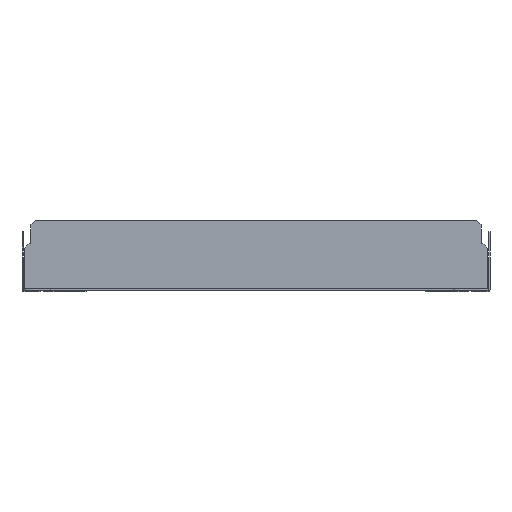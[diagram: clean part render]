
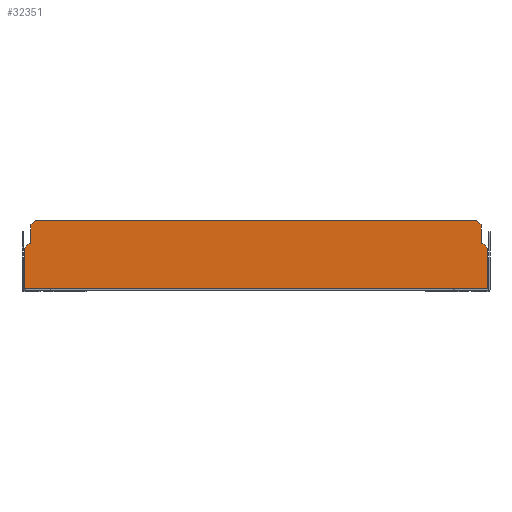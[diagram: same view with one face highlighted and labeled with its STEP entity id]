
A CAD part, front view. The second image highlights one B-rep face of the part: STEP entity #32351.
In plain terms, the highlighted planar face has unit normal (0, -1, 0).
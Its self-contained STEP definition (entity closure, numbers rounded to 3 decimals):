
#30596=CARTESIAN_POINT(' ',(247.5,-1.5,0.6));
#30597=VERTEX_POINT(' ',#30596);
#30611=CARTESIAN_POINT(' ',(247.5,-1.5,0.6));
#30616=DIRECTION(' ',(-1.,0.,0.));
#30621=VECTOR(' ',#30616,1.);
#30626=LINE('',#30611,#30621);
#30631=CARTESIAN_POINT(' ',(-247.5,-1.5,0.6));
#30632=VERTEX_POINT(' ',#30631);
#30636=EDGE_CURVE(' ',#30597,#30632,#30626,.T.);
#30776=CARTESIAN_POINT(' ',(247.5,-1.5,43.5));
#30777=VERTEX_POINT(' ',#30776);
#30791=CARTESIAN_POINT(' ',(247.5,-1.5,43.5));
#30796=DIRECTION(' ',(0.,0.,-1.));
#30801=VECTOR(' ',#30796,1.);
#30806=LINE('',#30791,#30801);
#30811=EDGE_CURVE(' ',#30777,#30597,#30806,.T.);
#31391=CARTESIAN_POINT(' ',(-247.5,-1.5,0.6));
#31396=DIRECTION(' ',(0.,0.,1.));
#31401=VECTOR(' ',#31396,1.);
#31406=LINE('',#31391,#31401);
#31411=CARTESIAN_POINT(' ',(-247.5,-1.5,43.5));
#31412=VERTEX_POINT(' ',#31411);
#31416=EDGE_CURVE(' ',#30632,#31412,#31406,.T.);
#31991=DIRECTION(' ',(0.,-1.,0.));
#31996=CARTESIAN_POINT(' ',(-247.5,-1.5,73.5));
#32001=DIRECTION(' ',(0.,0.,-1.));
#32006=AXIS2_PLACEMENT_3D(' ',#31996,#31991,#32001);
#32011=PLANE('NONE',#32006);
#32016=ORIENTED_EDGE(' ',*,*,#30811,.F.);
#32021=CARTESIAN_POINT(' ',(247.5,-1.5,43.5));
#32026=DIRECTION(' ',(-0.707,0.,0.707));
#32031=VECTOR(' ',#32026,1.);
#32036=LINE('',#32021,#32031);
#32041=CARTESIAN_POINT(' ',(242.5,-1.5,48.5));
#32042=VERTEX_POINT(' ',#32041);
#32046=EDGE_CURVE(' ',#30777,#32042,#32036,.T.);
#32051=ORIENTED_EDGE(' ',*,*,#32046,.T.);
#32056=CARTESIAN_POINT(' ',(240.5,-1.5,48.5));
#32061=DIRECTION(' ',(1.,0.,0.));
#32066=VECTOR(' ',#32061,1.);
#32071=LINE('',#32056,#32066);
#32076=CARTESIAN_POINT(' ',(240.5,-1.5,48.5));
#32077=VERTEX_POINT(' ',#32076);
#32081=EDGE_CURVE(' ',#32077,#32042,#32071,.T.);
#32086=ORIENTED_EDGE(' ',*,*,#32081,.F.);
#32091=CARTESIAN_POINT(' ',(240.5,-1.5,48.5));
#32096=DIRECTION(' ',(0.,0.,1.));
#32101=VECTOR(' ',#32096,1.);
#32106=LINE('',#32091,#32101);
#32111=CARTESIAN_POINT(' ',(240.5,-1.5,68.5));
#32112=VERTEX_POINT(' ',#32111);
#32116=EDGE_CURVE(' ',#32077,#32112,#32106,.T.);
#32121=ORIENTED_EDGE(' ',*,*,#32116,.T.);
#32126=CARTESIAN_POINT(' ',(240.5,-1.5,68.5));
#32131=DIRECTION(' ',(-0.707,0.,0.707));
#32136=VECTOR(' ',#32131,1.);
#32141=LINE('',#32126,#32136);
#32146=CARTESIAN_POINT(' ',(235.5,-1.5,73.5));
#32147=VERTEX_POINT(' ',#32146);
#32151=EDGE_CURVE(' ',#32112,#32147,#32141,.T.);
#32156=ORIENTED_EDGE(' ',*,*,#32151,.T.);
#32161=CARTESIAN_POINT(' ',(235.5,-1.5,73.5));
#32166=DIRECTION(' ',(-1.,0.,0.));
#32171=VECTOR(' ',#32166,1.);
#32176=LINE('',#32161,#32171);
#32181=CARTESIAN_POINT(' ',(-235.5,-1.5,73.5));
#32182=VERTEX_POINT(' ',#32181);
#32186=EDGE_CURVE(' ',#32147,#32182,#32176,.T.);
#32191=ORIENTED_EDGE(' ',*,*,#32186,.T.);
#32196=CARTESIAN_POINT(' ',(-235.5,-1.5,73.5));
#32201=DIRECTION(' ',(-0.707,0.,-0.707));
#32206=VECTOR(' ',#32201,1.);
#32211=LINE('',#32196,#32206);
#32216=CARTESIAN_POINT(' ',(-240.5,-1.5,68.5));
#32217=VERTEX_POINT(' ',#32216);
#32221=EDGE_CURVE(' ',#32182,#32217,#32211,.T.);
#32226=ORIENTED_EDGE(' ',*,*,#32221,.T.);
#32231=CARTESIAN_POINT(' ',(-240.5,-1.5,48.5));
#32236=DIRECTION(' ',(0.,0.,1.));
#32241=VECTOR(' ',#32236,1.);
#32246=LINE('',#32231,#32241);
#32251=CARTESIAN_POINT(' ',(-240.5,-1.5,48.5));
#32252=VERTEX_POINT(' ',#32251);
#32256=EDGE_CURVE(' ',#32252,#32217,#32246,.T.);
#32261=ORIENTED_EDGE(' ',*,*,#32256,.F.);
#32266=CARTESIAN_POINT(' ',(-240.5,-1.5,48.5));
#32271=DIRECTION(' ',(-1.,0.,0.));
#32276=VECTOR(' ',#32271,1.);
#32281=LINE('',#32266,#32276);
#32286=CARTESIAN_POINT(' ',(-242.5,-1.5,48.5));
#32287=VERTEX_POINT(' ',#32286);
#32291=EDGE_CURVE(' ',#32252,#32287,#32281,.T.);
#32296=ORIENTED_EDGE(' ',*,*,#32291,.T.);
#32301=CARTESIAN_POINT(' ',(-242.5,-1.5,48.5));
#32306=DIRECTION(' ',(-0.707,0.,-0.707));
#32311=VECTOR(' ',#32306,1.);
#32316=LINE('',#32301,#32311);
#32321=EDGE_CURVE(' ',#32287,#31412,#32316,.T.);
#32326=ORIENTED_EDGE(' ',*,*,#32321,.T.);
#32331=ORIENTED_EDGE(' ',*,*,#31416,.F.);
#32336=ORIENTED_EDGE(' ',*,*,#30636,.F.);
#32341=EDGE_LOOP(' ',(#32016,#32051,#32086,#32121,#32156,#32191,#32226,#32261,#32296,#32326,#32331,#32336));
#32346=FACE_OUTER_BOUND(' ',#32341,.T.);
#32351=ADVANCED_FACE('NONE',(#32346),#32011,.T.);
